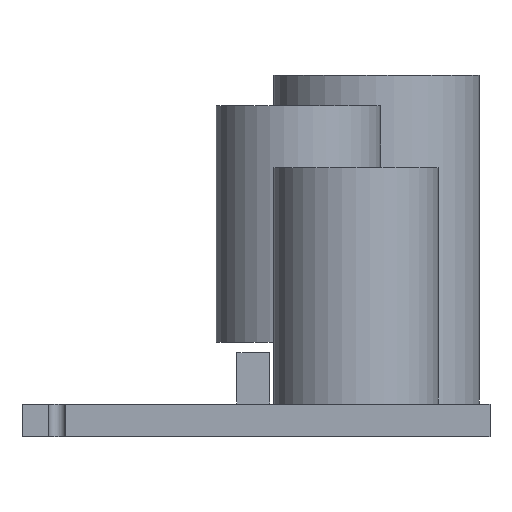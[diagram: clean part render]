
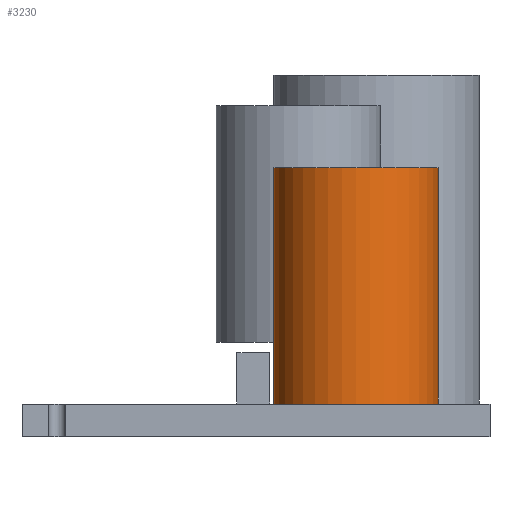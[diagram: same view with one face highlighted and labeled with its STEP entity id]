
A CAD part, front view. The second image highlights one B-rep face of the part: STEP entity #3230.
In plain terms, the highlighted cylindrical face has radius 4 mm (diameter 8 mm), a full revolution.
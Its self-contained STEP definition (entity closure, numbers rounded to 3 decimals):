
#3230 = ADVANCED_FACE('',(#3231),#3245,.T.);
#3231 = FACE_BOUND('',#3232,.F.);
#3232 = EDGE_LOOP('',(#3233,#3263,#3290,#3291));
#3233 = ORIENTED_EDGE('',*,*,#3234,.T.);
#3234 = EDGE_CURVE('',#3235,#3237,#3239,.T.);
#3235 = VERTEX_POINT('',#3236);
#3236 = CARTESIAN_POINT('',(5.248,-8.202,0.));
#3237 = VERTEX_POINT('',#3238);
#3238 = CARTESIAN_POINT('',(5.248,-8.202,11.5));
#3239 = SEAM_CURVE('',#3240,(#3244,#3256),.PCURVE_S1.);
#3240 = LINE('',#3241,#3242);
#3241 = CARTESIAN_POINT('',(5.248,-8.202,0.));
#3242 = VECTOR('',#3243,1.);
#3243 = DIRECTION('',(0.,0.,1.));
#3244 = PCURVE('',#3245,#3250);
#3245 = CYLINDRICAL_SURFACE('',#3246,4.);
#3246 = AXIS2_PLACEMENT_3D('',#3247,#3248,#3249);
#3247 = CARTESIAN_POINT('',(1.248,-8.202,0.));
#3248 = DIRECTION('',(-0.,-0.,-1.));
#3249 = DIRECTION('',(1.,0.,0.));
#3250 = DEFINITIONAL_REPRESENTATION('',(#3251),#3255);
#3251 = LINE('',#3252,#3253);
#3252 = CARTESIAN_POINT('',(-0.,0.));
#3253 = VECTOR('',#3254,1.);
#3254 = DIRECTION('',(-0.,-1.));
#3255 = ( GEOMETRIC_REPRESENTATION_CONTEXT(2) 
PARAMETRIC_REPRESENTATION_CONTEXT() REPRESENTATION_CONTEXT('2D SPACE',''
  ) );
#3256 = PCURVE('',#3245,#3257);
#3257 = DEFINITIONAL_REPRESENTATION('',(#3258),#3262);
#3258 = LINE('',#3259,#3260);
#3259 = CARTESIAN_POINT('',(-6.283,0.));
#3260 = VECTOR('',#3261,1.);
#3261 = DIRECTION('',(-0.,-1.));
#3262 = ( GEOMETRIC_REPRESENTATION_CONTEXT(2) 
PARAMETRIC_REPRESENTATION_CONTEXT() REPRESENTATION_CONTEXT('2D SPACE',''
  ) );
#3263 = ORIENTED_EDGE('',*,*,#3264,.T.);
#3264 = EDGE_CURVE('',#3237,#3237,#3265,.T.);
#3265 = SURFACE_CURVE('',#3266,(#3271,#3278),.PCURVE_S1.);
#3266 = CIRCLE('',#3267,4.);
#3267 = AXIS2_PLACEMENT_3D('',#3268,#3269,#3270);
#3268 = CARTESIAN_POINT('',(1.248,-8.202,11.5));
#3269 = DIRECTION('',(0.,0.,1.));
#3270 = DIRECTION('',(1.,0.,0.));
#3271 = PCURVE('',#3245,#3272);
#3272 = DEFINITIONAL_REPRESENTATION('',(#3273),#3277);
#3273 = LINE('',#3274,#3275);
#3274 = CARTESIAN_POINT('',(-0.,-11.5));
#3275 = VECTOR('',#3276,1.);
#3276 = DIRECTION('',(-1.,0.));
#3277 = ( GEOMETRIC_REPRESENTATION_CONTEXT(2) 
PARAMETRIC_REPRESENTATION_CONTEXT() REPRESENTATION_CONTEXT('2D SPACE',''
  ) );
#3278 = PCURVE('',#3279,#3284);
#3279 = PLANE('',#3280);
#3280 = AXIS2_PLACEMENT_3D('',#3281,#3282,#3283);
#3281 = CARTESIAN_POINT('',(1.248,-8.202,11.5));
#3282 = DIRECTION('',(0.,0.,1.));
#3283 = DIRECTION('',(1.,0.,-0.));
#3284 = DEFINITIONAL_REPRESENTATION('',(#3285),#3289);
#3285 = CIRCLE('',#3286,4.);
#3286 = AXIS2_PLACEMENT_2D('',#3287,#3288);
#3287 = CARTESIAN_POINT('',(0.,0.));
#3288 = DIRECTION('',(1.,0.));
#3289 = ( GEOMETRIC_REPRESENTATION_CONTEXT(2) 
PARAMETRIC_REPRESENTATION_CONTEXT() REPRESENTATION_CONTEXT('2D SPACE',''
  ) );
#3290 = ORIENTED_EDGE('',*,*,#3234,.F.);
#3291 = ORIENTED_EDGE('',*,*,#3292,.F.);
#3292 = EDGE_CURVE('',#3235,#3235,#3293,.T.);
#3293 = SURFACE_CURVE('',#3294,(#3299,#3306),.PCURVE_S1.);
#3294 = CIRCLE('',#3295,4.);
#3295 = AXIS2_PLACEMENT_3D('',#3296,#3297,#3298);
#3296 = CARTESIAN_POINT('',(1.248,-8.202,0.));
#3297 = DIRECTION('',(0.,0.,1.));
#3298 = DIRECTION('',(1.,0.,0.));
#3299 = PCURVE('',#3245,#3300);
#3300 = DEFINITIONAL_REPRESENTATION('',(#3301),#3305);
#3301 = LINE('',#3302,#3303);
#3302 = CARTESIAN_POINT('',(-0.,0.));
#3303 = VECTOR('',#3304,1.);
#3304 = DIRECTION('',(-1.,0.));
#3305 = ( GEOMETRIC_REPRESENTATION_CONTEXT(2) 
PARAMETRIC_REPRESENTATION_CONTEXT() REPRESENTATION_CONTEXT('2D SPACE',''
  ) );
#3306 = PCURVE('',#3307,#3312);
#3307 = PLANE('',#3308);
#3308 = AXIS2_PLACEMENT_3D('',#3309,#3310,#3311);
#3309 = CARTESIAN_POINT('',(1.248,-8.202,0.));
#3310 = DIRECTION('',(0.,0.,1.));
#3311 = DIRECTION('',(1.,0.,-0.));
#3312 = DEFINITIONAL_REPRESENTATION('',(#3313),#3317);
#3313 = CIRCLE('',#3314,4.);
#3314 = AXIS2_PLACEMENT_2D('',#3315,#3316);
#3315 = CARTESIAN_POINT('',(0.,0.));
#3316 = DIRECTION('',(1.,0.));
#3317 = ( GEOMETRIC_REPRESENTATION_CONTEXT(2) 
PARAMETRIC_REPRESENTATION_CONTEXT() REPRESENTATION_CONTEXT('2D SPACE',''
  ) );
